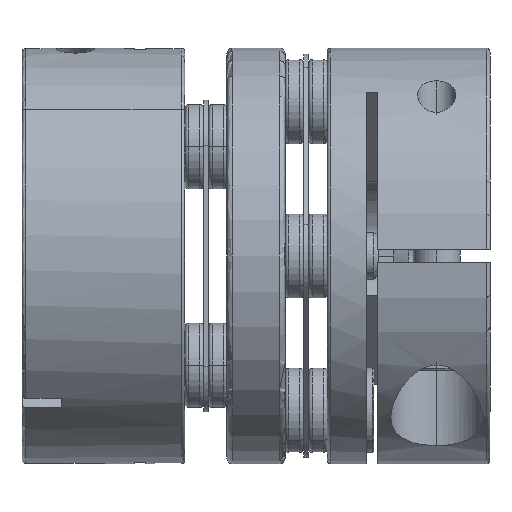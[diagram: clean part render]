
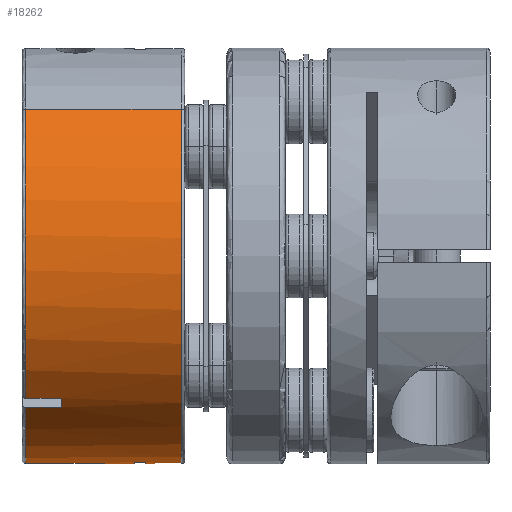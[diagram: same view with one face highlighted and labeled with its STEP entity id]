
A CAD part, left-side view. The second image highlights one B-rep face of the part: STEP entity #18262.
In plain terms, the highlighted cylindrical face has radius 11.1 mm (diameter 22.2 mm), a partial arc.
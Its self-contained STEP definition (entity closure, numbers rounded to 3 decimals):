
#321 = VERTEX_POINT ( 'NONE', #3188 ) ;
#325 = VERTEX_POINT ( 'NONE', #3192 ) ;
#328 = VERTEX_POINT ( 'NONE', #3195 ) ;
#494 = B_SPLINE_CURVE_WITH_KNOTS ( 'NONE', 3,
 ( #19163, #19158, #19166, #19167 ),
 .UNSPECIFIED., .F., .F.,
 ( 4, 4 ),
 ( 0., 0.001 ),
 .UNSPECIFIED. ) ;
#529 = VERTEX_POINT ( 'NONE', #22474 ) ;
#550 = VERTEX_POINT ( 'NONE', #22494 ) ;
#561 = VERTEX_POINT ( 'NONE', #22505 ) ;
#571 = VERTEX_POINT ( 'NONE', #22515 ) ;
#772 = VERTEX_POINT ( 'NONE', #1937 ) ;
#775 = VERTEX_POINT ( 'NONE', #1940 ) ;
#778 = VERTEX_POINT ( 'NONE', #1943 ) ;
#779 = VERTEX_POINT ( 'NONE', #1944 ) ;
#783 = VERTEX_POINT ( 'NONE', #1948 ) ;
#1937 = CARTESIAN_POINT ( 'NONE',  ( -7.597, 11.946, -8.092 ) ) ;
#1940 = CARTESIAN_POINT ( 'NONE',  ( -1.3, 7.45, -11.024 ) ) ;
#1943 = CARTESIAN_POINT ( 'NONE',  ( -1.3, 8.05, -11.024 ) ) ;
#1944 = CARTESIAN_POINT ( 'NONE',  ( -8.092, 11.946, -7.597 ) ) ;
#1948 = CARTESIAN_POINT ( 'NONE',  ( -7.597, 13.85, -8.092 ) ) ;
#3188 = CARTESIAN_POINT ( 'NONE',  ( 7.849, 13.85, -7.849 ) ) ;
#3192 = CARTESIAN_POINT ( 'NONE',  ( 7.849, 8.05, -7.849 ) ) ;
#3195 = CARTESIAN_POINT ( 'NONE',  ( 7.849, 7.45, -7.849 ) ) ;
#6398 = ORIENTED_EDGE ( 'NONE', *, *, #19541, .F. ) ;
#6399 = ORIENTED_EDGE ( 'NONE', *, *, #8578, .T. ) ;
#6400 = ORIENTED_EDGE ( 'NONE', *, *, #19547, .T. ) ;
#6401 = ORIENTED_EDGE ( 'NONE', *, *, #9039, .T. ) ;
#6402 = ORIENTED_EDGE ( 'NONE', *, *, #8579, .F. ) ;
#6403 = ORIENTED_EDGE ( 'NONE', *, *, #8580, .F. ) ;
#6404 = ORIENTED_EDGE ( 'NONE', *, *, #8581, .T. ) ;
#6405 = ORIENTED_EDGE ( 'NONE', *, *, #8582, .T. ) ;
#6406 = ORIENTED_EDGE ( 'NONE', *, *, #19550, .F. ) ;
#6407 = ORIENTED_EDGE ( 'NONE', *, *, #8559, .F. ) ;
#6408 = ORIENTED_EDGE ( 'NONE', *, *, #8576, .T. ) ;
#6409 = ORIENTED_EDGE ( 'NONE', *, *, #8563, .F. ) ;
#8559 = EDGE_CURVE ( 'NONE', #778, #325, #13024, .T. ) ;
#8563 = EDGE_CURVE ( 'NONE', #328, #775, #13033, .T. ) ;
#8576 = EDGE_CURVE ( 'NONE', #778, #775, #13046, .T. ) ;
#8578 = EDGE_CURVE ( 'NONE', #529, #561, #13050, .T. ) ;
#8579 = EDGE_CURVE ( 'NONE', #779, #550, #13051, .T. ) ;
#8580 = EDGE_CURVE ( 'NONE', #772, #779, #494, .T. ) ;
#8581 = EDGE_CURVE ( 'NONE', #772, #783, #13052, .T. ) ;
#8582 = EDGE_CURVE ( 'NONE', #783, #321, #13048, .T. ) ;
#9039 = EDGE_CURVE ( 'NONE', #571, #550, #13655, .T. ) ;
#9893 = CARTESIAN_POINT ( 'NONE',  ( 0., 13.85, 0. ) ) ;
#9894 = DIRECTION ( 'NONE',  ( 0., -1., 0. ) ) ;
#9895 = DIRECTION ( 'NONE',  ( -0.707, 0., 0.707 ) ) ;
#10395 = AXIS2_PLACEMENT_3D ( 'NONE', #17866, #17867, #17868 ) ;
#10399 = AXIS2_PLACEMENT_3D ( 'NONE', #17875, #17876, #17877 ) ;
#10427 = AXIS2_PLACEMENT_3D ( 'NONE', #19160, #19161, #19162 ) ;
#10429 = AXIS2_PLACEMENT_3D ( 'NONE', #19169, #19170, #19171 ) ;
#10951 = AXIS2_PLACEMENT_3D ( 'NONE', #9893, #9894, #9895 ) ;
#11509 = AXIS2_PLACEMENT_3D ( 'NONE', #15459, #15458, #15454 ) ;
#13024 = CIRCLE ( 'NONE', #10395, 11.1 ) ;
#13033 = CIRCLE ( 'NONE', #10399, 11.1 ) ;
#13046 = LINE ( 'NONE', #17912, #13049 ) ;
#13048 = CIRCLE ( 'NONE', #10429, 11.1 ) ;
#13049 = VECTOR ( 'NONE', #17890, 1000. ) ;
#13050 = CIRCLE ( 'NONE', #10427, 11.1 ) ;
#13051 = LINE ( 'NONE', #17916, #13053 ) ;
#13052 = LINE ( 'NONE', #19165, #13055 ) ;
#13053 = VECTOR ( 'NONE', #17917, 1000. ) ;
#13055 = VECTOR ( 'NONE', #19168, 1000. ) ;
#13655 = CIRCLE ( 'NONE', #10951, 11.1 ) ;
#14107 = FACE_OUTER_BOUND ( 'NONE', #21940, .T. ) ;
#14115 = CYLINDRICAL_SURFACE ( 'NONE', #11509, 11.1 ) ;
#14766 = LINE ( 'NONE', #16752, #14767 ) ;
#14767 = VECTOR ( 'NONE', #16771, 1000. ) ;
#14774 = LINE ( 'NONE', #16777, #14776 ) ;
#14775 = LINE ( 'NONE', #16789, #14779 ) ;
#14776 = VECTOR ( 'NONE', #16779, 1000. ) ;
#14779 = VECTOR ( 'NONE', #16788, 1000. ) ;
#15454 = DIRECTION ( 'NONE',  ( -0.707, 0., 0.707 ) ) ;
#15458 = DIRECTION ( 'NONE',  ( 0., 1., 0. ) ) ;
#15459 = CARTESIAN_POINT ( 'NONE',  ( 0., 5.35, 0. ) ) ;
#16752 = CARTESIAN_POINT ( 'NONE',  ( 7.849, 5.35, -7.849 ) ) ;
#16771 = DIRECTION ( 'NONE',  ( 0., 1., 0. ) ) ;
#16777 = CARTESIAN_POINT ( 'NONE',  ( -7.849, 5.35, 7.849 ) ) ;
#16779 = DIRECTION ( 'NONE',  ( 0., 1., 0. ) ) ;
#16788 = DIRECTION ( 'NONE',  ( 0., 1., 0. ) ) ;
#16789 = CARTESIAN_POINT ( 'NONE',  ( 7.849, 5.35, -7.849 ) ) ;
#17866 = CARTESIAN_POINT ( 'NONE',  ( 0., 8.05, 0. ) ) ;
#17867 = DIRECTION ( 'NONE',  ( 0., -1., 0. ) ) ;
#17868 = DIRECTION ( 'NONE',  ( -0.707, 0., -0.707 ) ) ;
#17875 = CARTESIAN_POINT ( 'NONE',  ( 0., 7.45, 0. ) ) ;
#17876 = DIRECTION ( 'NONE',  ( 0., 1., 0. ) ) ;
#17877 = DIRECTION ( 'NONE',  ( 0.707, 0., 0.707 ) ) ;
#17890 = DIRECTION ( 'NONE',  ( 0., -1., 0. ) ) ;
#17912 = CARTESIAN_POINT ( 'NONE',  ( -1.3, 5.35, -11.024 ) ) ;
#17916 = CARTESIAN_POINT ( 'NONE',  ( -8.092, 5.35, -7.597 ) ) ;
#17917 = DIRECTION ( 'NONE',  ( 0., 1., 0. ) ) ;
#18262 = ADVANCED_FACE ( 'NONE', ( #14107 ), #14115, .T. ) ;
#19158 = CARTESIAN_POINT ( 'NONE',  ( -7.768, 11.951, -7.933 ) ) ;
#19160 = CARTESIAN_POINT ( 'NONE',  ( 0., 5.55, 0. ) ) ;
#19161 = DIRECTION ( 'NONE',  ( 0., 1., 0. ) ) ;
#19162 = DIRECTION ( 'NONE',  ( -0.707, 0., 0.707 ) ) ;
#19163 = CARTESIAN_POINT ( 'NONE',  ( -7.597, 11.946, -8.092 ) ) ;
#19165 = CARTESIAN_POINT ( 'NONE',  ( -7.597, 5.35, -8.092 ) ) ;
#19166 = CARTESIAN_POINT ( 'NONE',  ( -7.933, 11.951, -7.768 ) ) ;
#19167 = CARTESIAN_POINT ( 'NONE',  ( -8.092, 11.946, -7.597 ) ) ;
#19168 = DIRECTION ( 'NONE',  ( 0., 1., 0. ) ) ;
#19169 = CARTESIAN_POINT ( 'NONE',  ( 0., 13.85, 0. ) ) ;
#19170 = DIRECTION ( 'NONE',  ( 0., -1., 0. ) ) ;
#19171 = DIRECTION ( 'NONE',  ( -0.707, 0., 0.707 ) ) ;
#19541 = EDGE_CURVE ( 'NONE', #529, #328, #14766, .T. ) ;
#19547 = EDGE_CURVE ( 'NONE', #561, #571, #14774, .T. ) ;
#19550 = EDGE_CURVE ( 'NONE', #325, #321, #14775, .T. ) ;
#21940 = EDGE_LOOP ( 'NONE', ( #6398, #6399, #6400, #6401, #6402, #6403, #6404, #6405, #6406, #6407, #6408, #6409 ) ) ;
#22474 = CARTESIAN_POINT ( 'NONE',  ( 7.849, 5.55, -7.849 ) ) ;
#22494 = CARTESIAN_POINT ( 'NONE',  ( -8.092, 13.85, -7.597 ) ) ;
#22505 = CARTESIAN_POINT ( 'NONE',  ( -7.849, 5.55, 7.849 ) ) ;
#22515 = CARTESIAN_POINT ( 'NONE',  ( -7.849, 13.85, 7.849 ) ) ;
